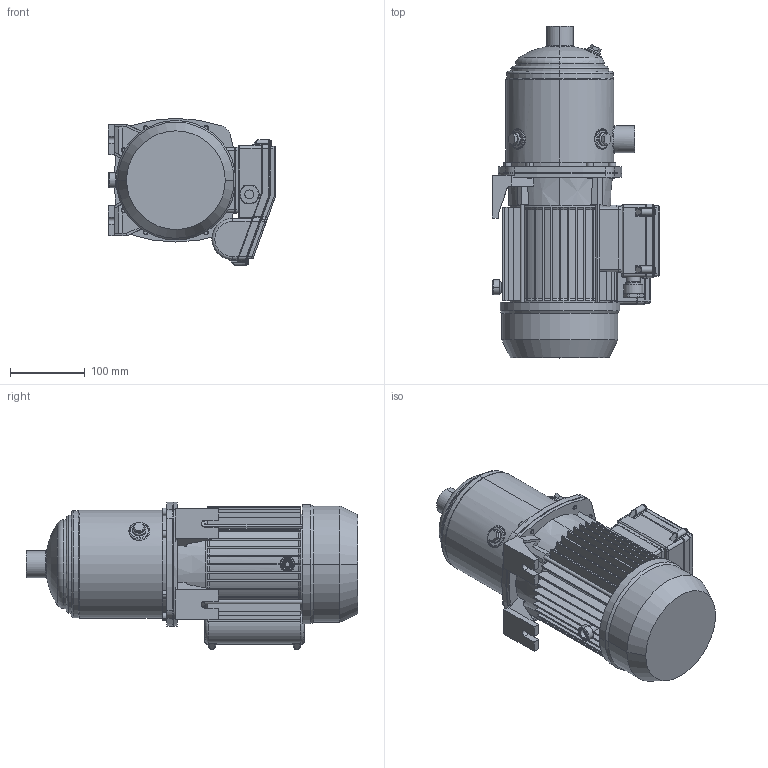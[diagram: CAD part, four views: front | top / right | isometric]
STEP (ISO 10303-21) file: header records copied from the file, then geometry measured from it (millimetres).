
FILE_DESCRIPTION((''),'2;1');
FILE_NAME('MATRIX_3-5T6_1_5_M_ASM','2018-06-01T',('rosa'),('"Ebara Pumps Europe +39.444.706811"'),'PRO/ENGINEER BY PARAMETRIC TECHNOLOGY CORPORATION, 2012130','PRO/ENGINEER BY PARAMETRIC TECHNOLOGY CORPORATION, 2012130','');
FILE_SCHEMA(('AUTOMOTIVE_DESIGN { 1 0 10303 214 1 1 1 1 }'));
Length unit declared in the file: millimetre
Products named in the file (6): CORPO_POMPA_MATRIX_3-5; SUPPORTO_MATRIX_MEC_80; MEC_80_MONOFASE; COPRIMORSETTIERA_MEC80_90_M; 72229; MATRIX_3-5T6_1_5_M_ASM
Assembly tree (5 placements, depth 2):
  MATRIX_3-5T6_1_5_M_ASM
    CORPO_POMPA_MATRIX_3-5
    SUPPORTO_MATRIX_MEC_80
    MEC_80_MONOFASE
    COPRIMORSETTIERA_MEC80_90_M
    72229
Bounding box: 223 x 442.8 x 196.5 mm (x, y, z)
Volume: 5975891.1 mm3; surface area: 589716.6 mm2
Topology: 5 solids, 5 shells, 960 faces, 2294 edges, 1391 vertices
Faces by surface type: plane 427, cylinder 303, cone 108, torus 62, bspline 56, sphere 4
Entity records: 38975 total; most frequent: CARTESIAN_POINT 9187, DIRECTION 4712, ORIENTED_EDGE 4588, EDGE_CURVE 2294, PRESENTATION_STYLE_ASSIGNMENT 2248, STYLED_ITEM 2248, CURVE_STYLE 2244, AXIS2_PLACEMENT_3D 1815
